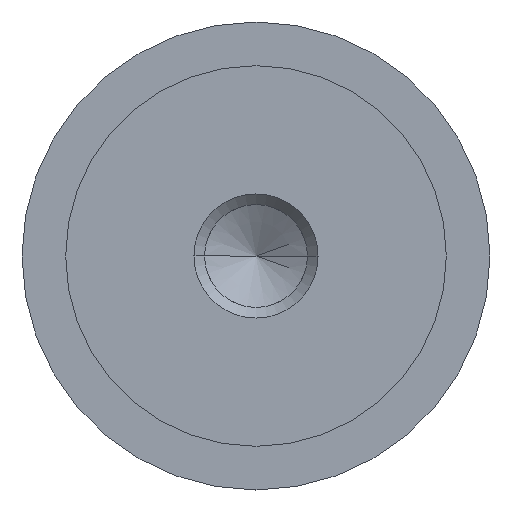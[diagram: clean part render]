
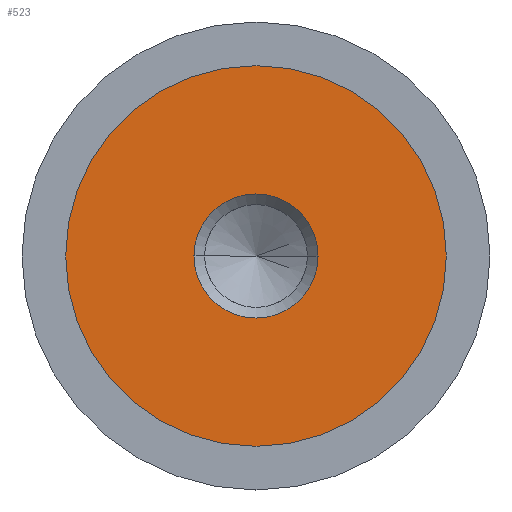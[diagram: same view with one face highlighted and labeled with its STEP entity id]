
A CAD part, left-side view. The second image highlights one B-rep face of the part: STEP entity #523.
In plain terms, the highlighted planar face has unit normal (-1, 0, 0).
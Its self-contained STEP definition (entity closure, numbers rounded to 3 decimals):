
#48 = VERTEX_POINT ( 'NONE', #390 ) ;
#54 = DIRECTION ( 'NONE',  ( 0., 0., -1. ) ) ;
#55 = ORIENTED_EDGE ( 'NONE', *, *, #357, .T. ) ;
#56 = DIRECTION ( 'NONE',  ( 0., 0., 1. ) ) ;
#67 = DIRECTION ( 'NONE',  ( 0., 0., 1. ) ) ;
#78 = CARTESIAN_POINT ( 'NONE',  ( -4.99, 0., 0. ) ) ;
#79 = CIRCLE ( 'NONE', #518, 6.1 ) ;
#95 = DIRECTION ( 'NONE',  ( 1., 0., 0. ) ) ;
#97 = CARTESIAN_POINT ( 'NONE',  ( -4.99, 0., 0. ) ) ;
#112 = DIRECTION ( 'NONE',  ( 1., 0., 0. ) ) ;
#147 = ORIENTED_EDGE ( 'NONE', *, *, #321, .T. ) ;
#158 = CARTESIAN_POINT ( 'NONE',  ( -4.99, 0., 6.1 ) ) ;
#164 = VERTEX_POINT ( 'NONE', #158 ) ;
#246 = DIRECTION ( 'NONE',  ( -1., 0., 0. ) ) ;
#255 = AXIS2_PLACEMENT_3D ( 'NONE', #637, #95, #705 ) ;
#263 = EDGE_LOOP ( 'NONE', ( #55, #547 ) ) ;
#321 = EDGE_CURVE ( 'NONE', #714, #452, #715, .T. ) ;
#337 = EDGE_CURVE ( 'NONE', #48, #164, #634, .T. ) ;
#345 = ORIENTED_EDGE ( 'NONE', *, *, #606, .T. ) ;
#357 = EDGE_CURVE ( 'NONE', #164, #48, #79, .T. ) ;
#359 = DIRECTION ( 'NONE',  ( -1., 0., 0. ) ) ;
#369 = DIRECTION ( 'NONE',  ( 1., 0., 0. ) ) ;
#390 = CARTESIAN_POINT ( 'NONE',  ( -4.99, 0., -6.1 ) ) ;
#421 = CARTESIAN_POINT ( 'NONE',  ( -4.99, 0., 0. ) ) ;
#433 = CARTESIAN_POINT ( 'NONE',  ( -4.99, 1.99, 0. ) ) ;
#452 = VERTEX_POINT ( 'NONE', #557 ) ;
#510 = EDGE_LOOP ( 'NONE', ( #345, #147 ) ) ;
#512 = FACE_BOUND ( 'NONE', #510, .T. ) ;
#514 = FACE_OUTER_BOUND ( 'NONE', #263, .T. ) ;
#518 = AXIS2_PLACEMENT_3D ( 'NONE', #78, #246, #67 ) ;
#523 = ADVANCED_FACE ( 'NONE', ( #512, #514 ), #759, .F. ) ;
#547 = ORIENTED_EDGE ( 'NONE', *, *, #337, .T. ) ;
#554 = AXIS2_PLACEMENT_3D ( 'NONE', #651, #359, #56 ) ;
#555 = AXIS2_PLACEMENT_3D ( 'NONE', #97, #112, #54 ) ;
#557 = CARTESIAN_POINT ( 'NONE',  ( -4.99, -1.99, 0. ) ) ;
#605 = AXIS2_PLACEMENT_3D ( 'NONE', #421, #369, #774 ) ;
#606 = EDGE_CURVE ( 'NONE', #452, #714, #646, .T. ) ;
#634 = CIRCLE ( 'NONE', #554, 6.1 ) ;
#637 = CARTESIAN_POINT ( 'NONE',  ( -4.99, 6.1, 0. ) ) ;
#646 = CIRCLE ( 'NONE', #555, 1.99 ) ;
#651 = CARTESIAN_POINT ( 'NONE',  ( -4.99, 0., 0. ) ) ;
#705 = DIRECTION ( 'NONE',  ( 0., 0., -1. ) ) ;
#714 = VERTEX_POINT ( 'NONE', #433 ) ;
#715 = CIRCLE ( 'NONE', #605, 1.99 ) ;
#759 = PLANE ( 'NONE',  #255 ) ;
#774 = DIRECTION ( 'NONE',  ( 0., 0., -1. ) ) ;
